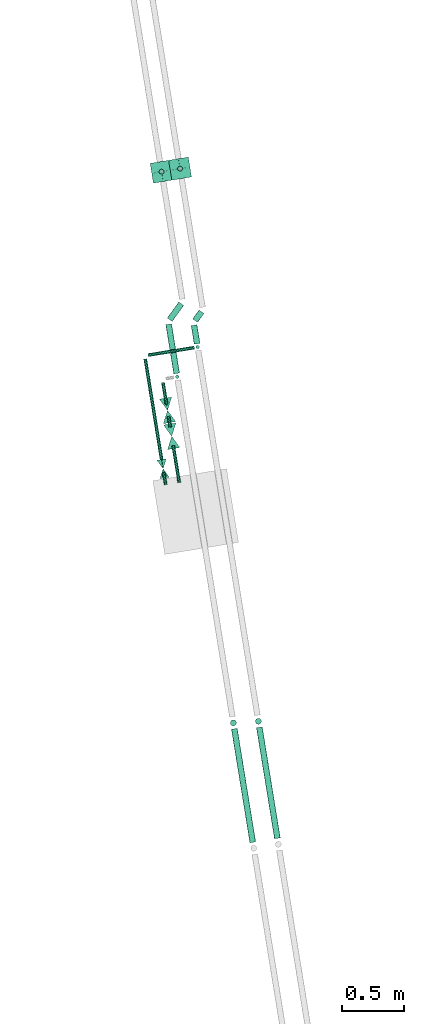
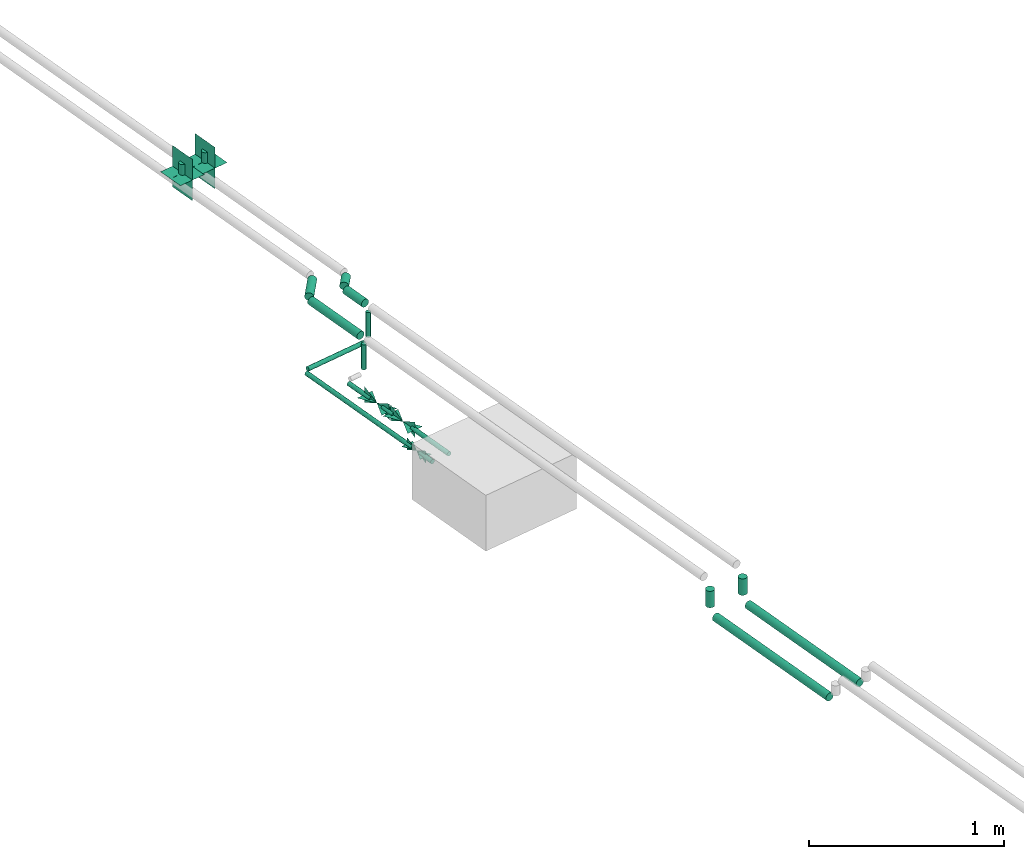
# One storey, part 4 of 10: 16 flow segments, 5 flow controllers.
"""IFC2X3 building model written with IfcOpenShell, lengths in millimetres."""

from ifc_helpers import new_model, entity, si_unit, converted_unit, derived_unit, direction, frame, frame_2d, origin, origin_with_axes, origin_2d_with_axis, place, context, subcontext, project, spatial, polyline, circle, outline, extrude, source, transform, mapped, material, material_list, type_object, element, save


model = new_model("IFC2X3")

# Units and contexts
plan_context = context("Plan", 3, precision=1e-05, world=origin_with_axes())
model_context = context("Model", 3, precision=0.01, world=origin(), true_north=direction((6.12323399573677e-17, 1.0)))
body_context = subcontext(model_context, "Body", "Model", "MODEL_VIEW")
ifc_project = project(units=[converted_unit("PLANEANGLEUNIT", "DEGREE", entity("IfcPositiveLengthMeasure", 0.0174532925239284), si_unit("PLANEANGLEUNIT", "RADIAN"), dimensions=[0, 0, 0, 0, 0, 0, 0]), si_unit("AREAUNIT", "SQUARE_METRE"), si_unit("LENGTHUNIT", "METRE", prefix="MILLI"), si_unit("MASSUNIT", "GRAM", prefix="KILO"), si_unit("POWERUNIT", "WATT"), si_unit("PRESSUREUNIT", "PASCAL", prefix="KILO"), si_unit("FORCEUNIT", "NEWTON", prefix="KILO"), si_unit("ELECTRICVOLTAGEUNIT", "VOLT"), si_unit("ELECTRICCURRENTUNIT", "AMPERE"), si_unit("THERMODYNAMICTEMPERATUREUNIT", "DEGREE_CELSIUS"), si_unit("TIMEUNIT", "SECOND"), si_unit("VOLUMEUNIT", "CUBIC_METRE"), derived_unit("LINEARVELOCITYUNIT", [(si_unit("LENGTHUNIT", "METRE"), 1), (si_unit("TIMEUNIT", "SECOND"), -1)]), derived_unit("VOLUMETRICFLOWRATEUNIT", [(si_unit("VOLUMEUNIT", "CUBIC_METRE"), 1), (si_unit("TIMEUNIT", "SECOND"), -1)]), derived_unit("THERMALTRANSMITTANCEUNIT", [(si_unit("POWERUNIT", "WATT"), 1), (si_unit("THERMODYNAMICTEMPERATUREUNIT", "KELVIN"), -1), (si_unit("AREAUNIT", "SQUARE_METRE"), -1)]), derived_unit("SOUNDPRESSUREUNIT", [(si_unit("PRESSUREUNIT", "PASCAL"), 1)])], contexts=[model_context, plan_context])

# Site, building, storey
site_placement = place(None, frame((-0.00071070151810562, 0.00438415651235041, 0.0), z_axis=(0.0, 0.0, 1.0), x_axis=(-0.160236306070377, 0.987078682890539, 0.0)))
site = spatial("IfcSite", under=ifc_project, at=site_placement, Name="Default", CompositionType="ELEMENT")
building_placement = place(site_placement, origin_with_axes())
building = spatial("IfcBuilding", under=site, at=building_placement, CompositionType="ELEMENT")
storey_placement = place(building_placement, frame((0.0, 0.0, 58999.9999999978), z_axis=(0.0, 0.0, 1.0), x_axis=(1.0, 0.0, 0.0)))
storey = spatial("IfcBuildingStorey", under=building, at=storey_placement, Name="Nivå F", CompositionType="ELEMENT", Elevation=58999.9999999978)

# Flow controllers
ifc_material_1 = material(Name="2d_hide")
valve_type_1 = type_object("IfcValveType", Name="REGULERINGSVENTIL - MANUELL--SV001T:REGULERINGSVENTIL - MANUELL-20-SV001T", PredefinedType="NOTDEFINED", material=ifc_material_1)
shared_shape_1 = source(origin(), body_context, "Body", "SweptSolid", [
    extrude(outline(polyline([(-52.1749194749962, -29.8142396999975), (59.6284793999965, -29.8142396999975), (-7.4535599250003, 59.628479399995), (-52.1749194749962, -29.8142396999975)])), frame((66.6666666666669, 0.0, -0.1), z_axis=(0.0, 0.0, 1.0), x_axis=(-0.894427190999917, -0.447213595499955, 0.0)), (0.0, 0.0, 1.0), 0.2),
    extrude(outline(polyline([(-50.0, -33.3333333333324), (50.0, -33.3333333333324), (0.0, 66.6666666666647), (-50.0, -33.3333333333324)])), frame((-66.6666666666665, 0.0, -0.1), z_axis=(0.0, 0.0, 1.0), x_axis=(0.0, -1.0, 0.0)), (0.0, 0.0, 1.0), 0.2),
    extrude(outline(polyline([(-52.1749194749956, -29.8142396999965), (59.6284793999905, -29.8142396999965), (-7.45355992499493, 59.628479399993), (-52.1749194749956, -29.8142396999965)])), frame((66.66666666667, -0.1, 0.0), z_axis=(0.0, 1.0, 0.0), x_axis=(-0.894427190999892, 0.0, 0.447213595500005)), (0.0, 0.0, 1.0), 0.2),
    extrude(outline(polyline([(-50.0, -33.3333333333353), (50.0, -33.3333333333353), (0.0, 66.6666666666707), (-50.0, -33.3333333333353)])), frame((-66.6666666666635, -0.1, 0.0), z_axis=(0.0, 1.0, 0.0), x_axis=(0.0, 0.0, 1.0)), (0.0, 0.0, 1.0), 0.2),
])
flow_controller_1_placement = place(storey_placement, frame((780569.285306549, -502664.454093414, 2600.0), z_axis=(0.0, 0.0, 1.0), x_axis=(1.0, 0.0, 0.0)))
element("IfcFlowController", 1, at=flow_controller_1_placement, inside=storey, type_object=valve_type_1, material=ifc_material_1, Name="REGULERINGSVENTIL - MANUELL--SV001T:REGULERINGSVENTIL - MANUELL-20-SV001T", ObjectType="REGULERINGSVENTIL - MANUELL--SV001T:REGULERINGSVENTIL - MANUELL-20-SV001T", context=body_context, shape_type="MappedRepresentation", body=[
    mapped(shared_shape_1, transform((0.0, 0.0, 0.0), scale=1.0)),
])
ifc_material_2 = material(Name="<Unnamed>")
valve_type_2 = type_object("IfcValveType", Name="STENGEVENTIL - MANUELL-  1-SM01T:STENGEVENTIL - MANUELL-20-SM001T", PredefinedType="NOTDEFINED", material=ifc_material_2)
shared_shape_2 = source(origin(), body_context, "Body", "SweptSolid", [
    extrude(outline(polyline([(-39.1311896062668, -22.3606797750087), (44.7213595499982, -22.3606797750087), (-5.59016994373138, 44.7213595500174), (-39.1311896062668, -22.3606797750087)])), frame((50.0, -1.07349053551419, 0.0), z_axis=(0.0, 1.0, 0.0), x_axis=(-0.894427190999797, 0.0, 0.447213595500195)), (0.0, 0.0, 1.0), 2.13989335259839),
    extrude(outline(polyline([(-37.5000000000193, -25.0), (37.5000000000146, -25.0), (0.0, 50.0), (-37.5000000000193, -25.0)])), frame((-50.0, -1.07349053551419, 0.0), z_axis=(0.0, 1.0, 0.0), x_axis=(0.0, 0.0, 1.0)), (0.0, 0.0, 1.0), 2.13989335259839),
    extrude(outline(polyline([(-37.5000000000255, -25.0), (37.5000000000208, -25.0), (0.0, 50.0), (-37.5000000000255, -25.0)])), frame((50.0, 0.0, -1.0664028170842), z_axis=(0.0, 0.0, 1.0), x_axis=(0.0, 1.0, 0.0)), (0.0, 0.0, 1.0), 2.13989335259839),
    extrude(outline(polyline([(-39.1311896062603, -22.360679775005), (44.7213595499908, -22.360679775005), (-5.59016994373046, 44.72135955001), (-39.1311896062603, -22.360679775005)])), frame((-50.0, 0.0, -1.0664028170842), z_axis=(0.0, 0.0, 1.0), x_axis=(0.894427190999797, 0.447213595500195, 0.0)), (0.0, 0.0, 1.0), 2.13989335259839),
])
flow_controller_2_placement = place(storey_placement, frame((780113.065649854, -502554.454093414, 2600.0), z_axis=(0.0, 0.0, -1.0), x_axis=(1.0, 0.0, 0.0)))
element("IfcFlowController", 2, at=flow_controller_2_placement, inside=storey, type_object=valve_type_2, material=ifc_material_2, Name="STENGEVENTIL - MANUELL-  1-SM01T:STENGEVENTIL - MANUELL-20-SM001T", ObjectType="STENGEVENTIL - MANUELL-  1-SM01T:STENGEVENTIL - MANUELL-20-SM001T", context=body_context, shape_type="MappedRepresentation", body=[
    mapped(shared_shape_2, transform((0.0, 0.0, 0.0), scale=1.0)),
])
valve_type_3 = type_object("IfcValveType", Name="REGULERINGSVENTIL - MOTORSTYRT-  1-SB001T:REGULERINGSVENTIL - MOTORSTYRT-SB001T", PredefinedType="NOTDEFINED", material=ifc_material_1)
shared_shape_3 = source(origin(), body_context, "Body", "SweptSolid", [
    extrude(outline(polyline([(-50.0, -33.3333333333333), (50.0, -33.3333333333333), (0.0, 66.6666666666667), (-50.0, -33.3333333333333)])), frame((66.6666666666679, 0.0, -0.1), z_axis=(0.0, 0.0, 1.0), x_axis=(0.0, 1.0, 0.0)), (0.0, 0.0, 1.0), 0.2),
    extrude(outline(polyline([(-52.1749194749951, -29.8142396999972), (59.6284793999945, -29.8142396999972), (-7.4535599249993, 59.6284793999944), (-52.1749194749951, -29.8142396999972)])), frame((-66.6666666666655, 0.0, -0.1), z_axis=(0.0, 0.0, 1.0), x_axis=(0.894427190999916, 0.447213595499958, 0.0)), (0.0, 0.0, 1.0), 0.2),
    extrude(outline(polyline([(-52.1749194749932, -29.8142396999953), (59.6284793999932, -29.8142396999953), (-7.45355992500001, 59.6284793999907), (-52.1749194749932, -29.8142396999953)])), frame((66.6666666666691, -0.1, 0.0), z_axis=(0.0, 1.0, 0.0), x_axis=(-0.894427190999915, 0.0, 0.447213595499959)), (0.0, 0.0, 1.0), 0.2),
    extrude(outline(polyline([(-50.0, -33.3333333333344), (50.0, -33.3333333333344), (0.0, 66.6666666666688), (-50.0, -33.3333333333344)])), frame((-66.6666666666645, -0.1, 0.0), z_axis=(0.0, 1.0, 0.0), x_axis=(0.0, 0.0, 1.0)), (0.0, 0.0, 1.0), 0.2),
])
flow_controller_3_placement = place(storey_placement, frame((780358.577391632, -502664.454093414, 2600.0), z_axis=(0.0, 0.0, 1.0), x_axis=(1.0, 0.0, 0.0)))
element("IfcFlowController", 3, at=flow_controller_3_placement, inside=storey, type_object=valve_type_3, material=ifc_material_1, Name="REGULERINGSVENTIL - MOTORSTYRT-  1-SB001T:REGULERINGSVENTIL - MOTORSTYRT-SB001T", ObjectType="REGULERINGSVENTIL - MOTORSTYRT-  1-SB001T:REGULERINGSVENTIL - MOTORSTYRT-SB001T", context=body_context, shape_type="MappedRepresentation", body=[
    mapped(shared_shape_3, transform((0.0, 0.0, 0.0), scale=1.0)),
])
ifc_material_3 = material(Name="Metal - Caleffi - Brass")
ifc_material_list = material_list([ifc_material_1, ifc_material_3])
valve_type_4 = type_object("IfcValveType", Name="LUFTEPOTTE--:LUFTEPOTTE", PredefinedType="NOTDEFINED", material=ifc_material_list)
shared_shape_4 = source(origin(), body_context, "Body", "SweptSolid", [
    extrude(outline(polyline([(-80.4999999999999, -88.6500000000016), (80.4999999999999, -88.6500000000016), (80.4999999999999, 71.3499999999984), (0.499999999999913, 71.3499999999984), (0.499999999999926, -54.0499999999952), (-0.499999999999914, -54.0499999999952), (-0.499999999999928, 71.3499999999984), (-80.4999999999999, 71.3499999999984), (-80.4999999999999, -88.6500000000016)])), frame((0.0, 8.55000000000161, -0.1)), (0.0, 0.0, 1.0), 0.2),
    extrude(outline(polyline([(-80.5, -108.874999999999), (-0.500000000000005, -108.874999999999), (-0.500000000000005, 66.6249999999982), (0.500000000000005, 66.6249999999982), (0.500000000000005, -108.874999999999), (80.5, -108.874999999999), (80.5, 151.125000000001), (-80.5, 151.125), (-80.5, -108.874999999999)])), frame((0.0, -0.1, 21.1250000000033), z_axis=(0.0, 1.0, 0.0), x_axis=(1.0, 0.0, 0.0)), (0.0, 0.0, 1.0), 0.2),
    extrude(circle(Radius=19.84375, at=frame_2d((-2.11497486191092e-15, -1.05857627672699e-13), x_axis=(1.0, 0.0))), frame((0.0, 0.0, 0.0), z_axis=(0.0, 0.0, 1.0), x_axis=(0.0, 1.0, 0.0)), (0.0, 0.0, 1.0), 66.6750000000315),
])
for number, where, z_axis, x_axis in (
    (4, (782467.397385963, -503074.454093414, 2906.00964185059), (0.0, 0.0, 1.0), (1.0, 0.0, 0.0)),
    (5, (782467.397385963, -502924.454093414, 2897.83070367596), (0.0, 0.0, 1.0), (1.0, 0.0, 0.0)),
):
    element("IfcFlowController", number, at=place(storey_placement, frame(where, z_axis=z_axis, x_axis=x_axis)), inside=storey, type_object=valve_type_4, material=ifc_material_list, Name="LUFTEPOTTE--:LUFTEPOTTE", ObjectType="LUFTEPOTTE--:LUFTEPOTTE", context=body_context, shape_type="MappedRepresentation", body=[
        mapped(shared_shape_4, transform((0.0, 0.0, 0.0), scale=1.0)),
    ])

# Flow segments
pipe_segment_type = type_object("IfcPipeSegmentType", Name="Pipe Types:Stålrør syrefast AISI 316", PredefinedType="NOTDEFINED")
flow_segment_1_placement = place(storey_placement, origin_with_axes())
element("IfcFlowSegment", 6, at=flow_segment_1_placement, inside=storey, type_object=pipe_segment_type, Name="Pipe Types:Stålrør syrefast AISI 316", ObjectType="Pipe Types:Stålrør syrefast AISI 316", context=body_context, shape_type="SweptSolid", body=[
    extrude(circle(Radius=24.1499996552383, at=origin_2d_with_axis()), frame((781396.119662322, -502910.278061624, 2820.0), z_axis=(-0.707106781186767, 0.707106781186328, 0.0), x_axis=(-0.707106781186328, -0.707106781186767, 0.0)), (0.0, 0.0, 1.0), 157.894025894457),
])
flow_segment_2_placement = place(storey_placement, origin_with_axes())
element("IfcFlowSegment", 7, at=flow_segment_2_placement, inside=storey, type_object=pipe_segment_type, Name="Pipe Types:Stålrør syrefast AISI 316", ObjectType="Pipe Types:Stålrør syrefast AISI 316", context=body_context, shape_type="SweptSolid", body=[
    extrude(circle(Radius=24.1499996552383, at=origin_2d_with_axis()), frame((781244.471725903, -502998.630125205, 2820.0), z_axis=(0.70710678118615, -0.707106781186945, 0.0), x_axis=(-0.707106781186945, -0.70710678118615, 0.0)), (0.0, 0.0, 1.0), 87.1833477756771),
])
flow_segment_3_placement = place(storey_placement, origin_with_axes())
element("IfcFlowSegment", 8, at=flow_segment_3_placement, inside=storey, type_object=pipe_segment_type, Name="Pipe Types:Stålrør syrefast AISI 316", ObjectType="Pipe Types:Stålrør syrefast AISI 316", context=body_context, shape_type="SweptSolid", body=[
    extrude(circle(Radius=13.3500004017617, at=origin_2d_with_axis()), frame((781031.840255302, -502957.654093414, 2600.0), z_axis=(0.0, 1.0, 0.0), x_axis=(-1.0, 0.0, 0.0)), (0.0, 0.0, 1.0), 376.400000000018),
])
flow_segment_4_placement = place(storey_placement, origin_with_axes())
element("IfcFlowSegment", 9, at=flow_segment_4_placement, inside=storey, type_object=pipe_segment_type, Name="Pipe Types:Stålrør syrefast AISI 316", ObjectType="Pipe Types:Stålrør syrefast AISI 316", context=body_context, shape_type="SweptSolid", body=[
    extrude(circle(Radius=13.3500004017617, at=origin_2d_with_axis()), frame((779982.953591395, -502554.454093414, 2600.0), z_axis=(1.0, 0.0, 0.0), x_axis=(0.0, 1.0, 0.0)), (0.0, 0.0, 1.0), 101.112058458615),
])
flow_segment_5_placement = place(storey_placement, origin_with_axes())
element("IfcFlowSegment", 10, at=flow_segment_5_placement, inside=storey, type_object=pipe_segment_type, Name="Pipe Types:Stålrør syrefast AISI 316", ObjectType="Pipe Types:Stålrør syrefast AISI 316", context=body_context, shape_type="SweptSolid", body=[
    extrude(circle(Radius=24.1499996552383, at=frame_2d((6.93034962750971e-11, 0.0), x_axis=(1.0, 0.0))), frame((777038.695694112, -502784.454093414, 2620.0), z_axis=(1.0, 0.0, 0.0), x_axis=(0.0, -1.0, 0.0)), (0.0, 0.0, 1.0), 923.199999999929),
])
flow_segment_6_placement = place(storey_placement, origin_with_axes())
element("IfcFlowSegment", 11, at=flow_segment_6_placement, inside=storey, type_object=pipe_segment_type, Name="Pipe Types:Stålrør syrefast AISI 316", ObjectType="Pipe Types:Stålrør syrefast AISI 316", context=body_context, shape_type="SweptSolid", body=[
    extrude(circle(Radius=24.1499996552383, at=origin_2d_with_axis()), frame((777038.695694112, -502984.454093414, 2620.0), z_axis=(1.0, 0.0, 0.0), x_axis=(0.0, -1.0, 0.0)), (0.0, 0.0, 1.0), 903.200000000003),
])
flow_segment_7_placement = place(storey_placement, origin_with_axes())
element("IfcFlowSegment", 12, at=flow_segment_7_placement, inside=storey, type_object=pipe_segment_type, Name="Pipe Types:Stålrør syrefast AISI 316", ObjectType="Pipe Types:Stålrør syrefast AISI 316", context=body_context, shape_type="SweptSolid", body=[
    extrude(circle(Radius=24.1499996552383, at=origin_2d_with_axis()), frame((778010.295694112, -502784.454093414, 2668.39999999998)), (0.0, 0.0, 1.0), 103.20000000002),
])
flow_segment_8_placement = place(storey_placement, origin_with_axes())
element("IfcFlowSegment", 13, at=flow_segment_8_placement, inside=storey, type_object=pipe_segment_type, Name="Pipe Types:Stålrør syrefast AISI 316", ObjectType="Pipe Types:Stålrør syrefast AISI 316", context=body_context, shape_type="SweptSolid", body=[
    extrude(circle(Radius=24.1499996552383, at=origin_2d_with_axis()), frame((777990.295694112, -502984.454093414, 2668.40000000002)), (0.0, 0.0, 1.0), 103.199999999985),
])
flow_segment_9_placement = place(storey_placement, origin_with_axes())
element("IfcFlowSegment", 14, at=flow_segment_9_placement, inside=storey, type_object=pipe_segment_type, Name="Pipe Types:Stålrør syrefast AISI 316", ObjectType="Pipe Types:Stålrør syrefast AISI 316", context=body_context, shape_type="SweptSolid", body=[
    extrude(circle(Radius=13.3500004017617, at=origin_2d_with_axis()), frame((781031.840255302, -502984.454093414, 2626.8)), (0.0, 0.0, 1.0), 156.899999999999),
])
flow_segment_10_placement = place(storey_placement, origin_with_axes())
element("IfcFlowSegment", 15, at=flow_segment_10_placement, inside=storey, type_object=pipe_segment_type, Name="Pipe Types:Stålrør syrefast AISI 316", ObjectType="Pipe Types:Stålrør syrefast AISI 316", context=body_context, shape_type="SweptSolid", body=[
    extrude(circle(Radius=24.1499996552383, at=origin_2d_with_axis()), frame((781058.640255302, -502984.454093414, 2820.0), z_axis=(1.0, 0.0, 0.0), x_axis=(0.0, 1.0, 0.0)), (0.0, 0.0, 1.0), 151.607502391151),
])
flow_segment_11_placement = place(storey_placement, origin_with_axes())
element("IfcFlowSegment", 16, at=flow_segment_11_placement, inside=storey, type_object=pipe_segment_type, Name="Pipe Types:Stålrør syrefast AISI 316", ObjectType="Pipe Types:Stålrør syrefast AISI 316", context=body_context, shape_type="SweptSolid", body=[
    extrude(circle(Radius=13.3500004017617, at=frame_2d((0.0, 6.93034962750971e-11), x_axis=(1.0, 0.0))), frame((780822.953591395, -502784.454093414, 2626.80000000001)), (0.0, 0.0, 1.0), 156.89999999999),
])
flow_segment_12_placement = place(storey_placement, origin_with_axes())
element("IfcFlowSegment", 17, at=flow_segment_12_placement, inside=storey, type_object=pipe_segment_type, Name="Pipe Types:Stålrør syrefast AISI 316", ObjectType="Pipe Types:Stålrør syrefast AISI 316", context=body_context, shape_type="SweptSolid", body=[
    extrude(circle(Radius=24.1499996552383, at=frame_2d((6.93034962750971e-11, 0.0), x_axis=(1.0, 0.0))), frame((780849.753591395, -502784.454093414, 2820.0), z_axis=(1.0, 0.0, 0.0), x_axis=(0.0, 1.0, 0.0)), (0.0, 0.0, 1.0), 400.49416629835),
])
flow_segment_13_placement = place(storey_placement, origin_with_axes())
element("IfcFlowSegment", 18, at=flow_segment_13_placement, inside=storey, type_object=pipe_segment_type, Name="Pipe Types:Stålrør syrefast AISI 316", ObjectType="Pipe Types:Stålrør syrefast AISI 316", context=body_context, shape_type="SweptSolid", body=[
    extrude(circle(Radius=13.3500004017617, at=origin_2d_with_axis()), frame((779982.953591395, -502664.454093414, 2600.0), z_axis=(1.0, 0.0, 0.0), x_axis=(0.0, 1.0, 0.0)), (0.0, 0.0, 1.0), 300.623800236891),
])
flow_segment_14_placement = place(storey_placement, origin_with_axes())
element("IfcFlowSegment", 19, at=flow_segment_14_placement, inside=storey, type_object=pipe_segment_type, Name="Pipe Types:Stålrør syrefast AISI 316", ObjectType="Pipe Types:Stålrør syrefast AISI 316", context=body_context, shape_type="SweptSolid", body=[
    extrude(circle(Radius=13.3500004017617, at=origin_2d_with_axis()), frame((780142.065649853, -502554.454093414, 2600.0), z_axis=(1.0, 0.0, 0.0), x_axis=(0.0, 1.0, 0.0)), (0.0, 0.0, 1.0), 862.974605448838),
])
flow_segment_15_placement = place(storey_placement, origin_with_axes())
element("IfcFlowSegment", 20, at=flow_segment_15_placement, inside=storey, type_object=pipe_segment_type, Name="Pipe Types:Stålrør syrefast AISI 316", ObjectType="Pipe Types:Stålrør syrefast AISI 316", context=body_context, shape_type="SweptSolid", body=[
    extrude(circle(Radius=13.3500004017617, at=origin_2d_with_axis()), frame((780617.785306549, -502664.454093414, 2600.0), z_axis=(1.0, 0.0, 0.0), x_axis=(0.0, 1.0, 0.0)), (0.0, 0.0, 1.0), 178.368284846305),
])
flow_segment_16_placement = place(storey_placement, origin_with_axes())
element("IfcFlowSegment", 21, at=flow_segment_16_placement, inside=storey, type_object=pipe_segment_type, Name="Pipe Types:Stålrør syrefast AISI 316", ObjectType="Pipe Types:Stålrør syrefast AISI 316", context=body_context, shape_type="SweptSolid", body=[
    extrude(circle(Radius=13.3500004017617, at=origin_2d_with_axis()), frame((780433.577391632, -502664.454093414, 2600.0), z_axis=(1.0, 0.0, 0.0), x_axis=(0.0, 1.0, 0.0)), (0.0, 0.0, 1.0), 87.2079149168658),
])

save(model, "model.ifc")
